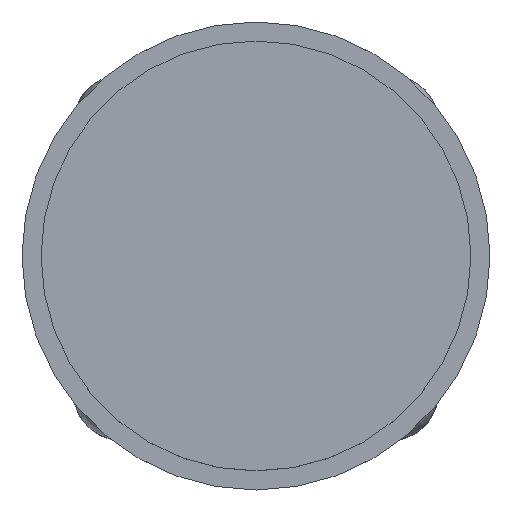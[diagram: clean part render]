
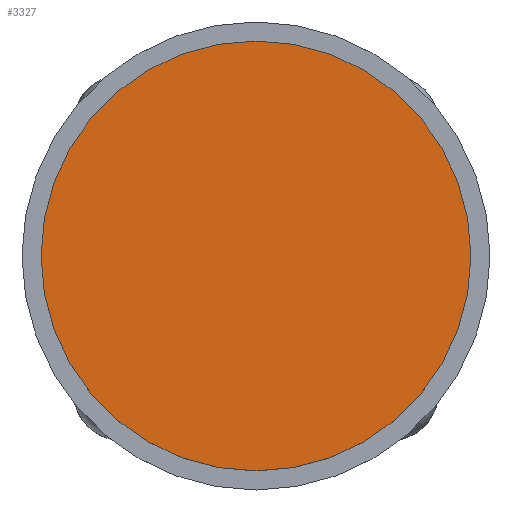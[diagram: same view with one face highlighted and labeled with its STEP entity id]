
A CAD part, top view. The second image highlights one B-rep face of the part: STEP entity #3327.
In plain terms, the highlighted planar face has unit normal (0, 0, 1).
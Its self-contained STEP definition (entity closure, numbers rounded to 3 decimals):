
#849=FACE_OUTER_BOUND('',#1131,.T.);
#1131=EDGE_LOOP('',(#2945));
#1417=CIRCLE('',#3953,225.);
#1676=VERTEX_POINT('',#6379);
#2098=EDGE_CURVE('',#1676,#1676,#1417,.T.);
#2945=ORIENTED_EDGE('',*,*,#2098,.T.);
#3054=PLANE('',#3955);
#3327=ADVANCED_FACE('',(#849),#3054,.T.);
#3953=AXIS2_PLACEMENT_3D('',#6380,#5187,#5188);
#3955=AXIS2_PLACEMENT_3D('',#6384,#5192,#5193);
#5187=DIRECTION('center_axis',(0.,0.,1.));
#5188=DIRECTION('ref_axis',(1.,0.,0.));
#5192=DIRECTION('center_axis',(0.,0.,1.));
#5193=DIRECTION('ref_axis',(1.,0.,0.));
#6379=CARTESIAN_POINT('',(-225.,0.,1851.05));
#6380=CARTESIAN_POINT('Origin',(0.,0.,
1851.05));
#6384=CARTESIAN_POINT('Origin',(0.,0.,
1851.05));
